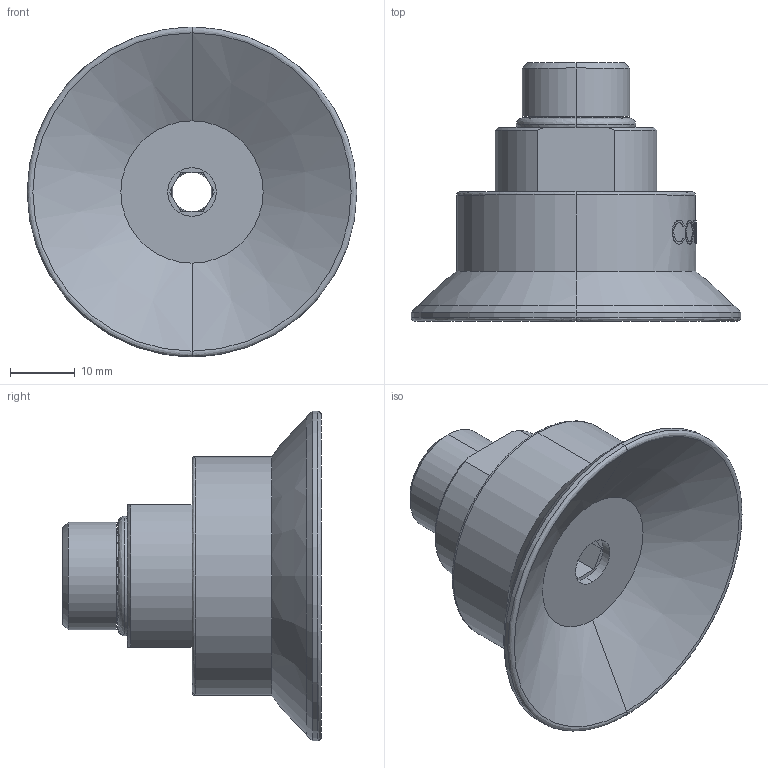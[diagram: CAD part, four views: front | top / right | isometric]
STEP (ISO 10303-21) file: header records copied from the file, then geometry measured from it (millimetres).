
FILE_DESCRIPTION (( 'STEP AP214' ), '1' );
FILE_NAME ('VFC 50.STEP', '2019-11-25T09:15:38', ( '微软用户' ), ( '微软中国' ), 'SwSTEP 2.0', 'SolidWorks 2016', '' );
FILE_SCHEMA (( 'AUTOMOTIVE_DESIGN' ));
Length unit declared in the file: millimetre
Products named in the file (1): VFC 50
Bounding box: 51 x 40 x 51 mm (x, y, z)
Volume: 24274 mm3; surface area: 10188.5 mm2
Topology: 3 solids, 3 shells, 131 faces, 308 edges, 196 vertices
Faces by surface type: bspline 43, plane 40, cylinder 32, cone 16
Entity records: 15099 total; most frequent: CARTESIAN_POINT 10765, ORIENTED_EDGE 616, DIRECTION 528, EDGE_CURVE 308, AXIS2_PLACEMENT_3D 199, VERTEX_POINT 196, EDGE_LOOP 150, UNCERTAINTY_MEASURE_WITH_UNIT 136
